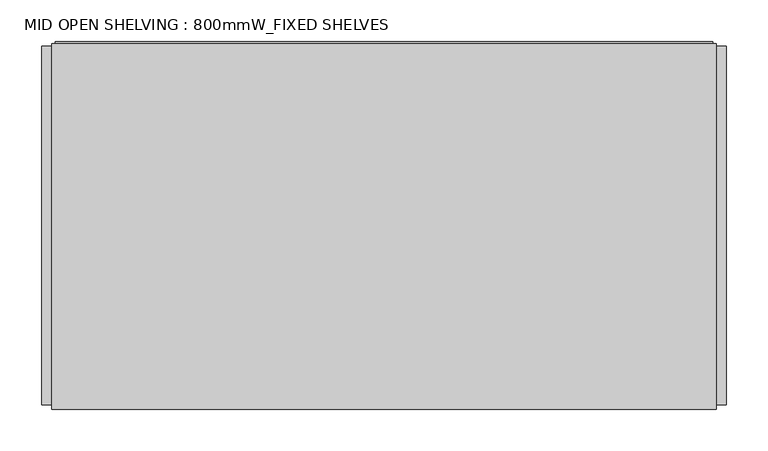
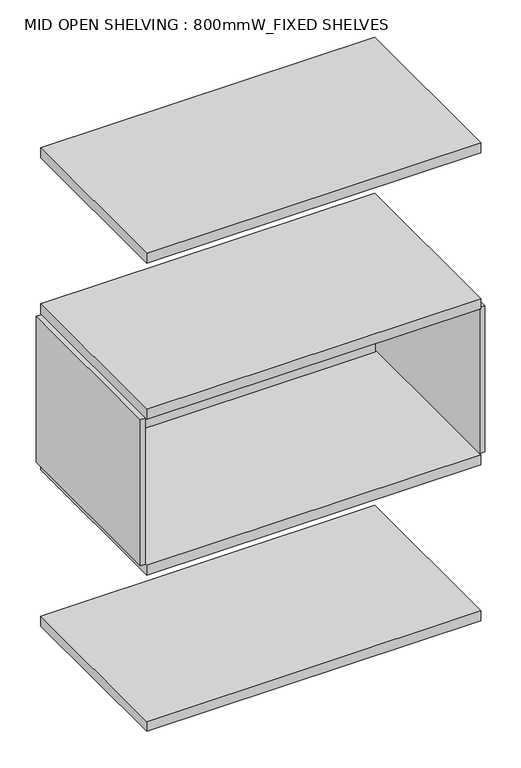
"""IFC4 building model written with IfcOpenShell, lengths in millimetres: furniture geometry, MID OPEN SHELVING : 800mmW_FIXED SHELVES."""

from ifc_helpers import new_model, si_unit, frame, origin, place, context, project, spatial, polyline, outline, extrude, source, transform, mapped, element, save


def mid_open_shelving_800mmw_fixed_shelves_dca0eaa3(model_context):
    return source(origin(), model_context, "Body", "SweptSolid", [
        extrude(outline(polyline([(412.0, -214.7757931), (400.0, -214.7757931), (400.0, 217.1931665), (412.0, 217.1931665), (412.0, -214.7757931)])), frame((0.0, 0.0, 413.0), z_axis=(0.0, 0.0, 1.0), x_axis=(1.0, 0.0, 0.0)), (0.0, 0.0, 1.0), 370.0),
        extrude(outline(polyline([(-400.0, -214.7757931), (-412.0, -214.7757931), (-412.0, 217.1931665), (-400.0, 217.1931665), (-400.0, -214.7757931)])), frame((0.0, 0.0, 413.0), z_axis=(0.0, 0.0, 1.0), x_axis=(1.0, 0.0, 0.0)), (0.0, 0.0, 1.0), 370.0),
        extrude(outline(polyline([(400.0, 220.0), (400.0, -220.0), (-400.0, -220.0), (-400.0, 220.0), (400.0, 220.0)])), frame((0.0, 0.0, -7.0), z_axis=(0.0, 0.0, 1.0), x_axis=(1.0, 0.0, 0.0)), (0.0, 0.0, 1.0), 25.0),
        extrude(outline(polyline([(400.0, 220.0), (400.0, -220.0), (-400.0, -220.0), (-400.0, 220.0), (400.0, 220.0)])), frame((0.0, 0.0, 388.0), z_axis=(0.0, 0.0, 1.0), x_axis=(1.0, 0.0, 0.0)), (0.0, 0.0, 1.0), 25.0),
        extrude(outline(polyline([(400.0, 220.0), (400.0, -220.0), (-400.0, -220.0), (-400.0, 220.0), (400.0, 220.0)])), frame((0.0, 0.0, 783.0), z_axis=(0.0, 0.0, 1.0), x_axis=(1.0, 0.0, 0.0)), (0.0, 0.0, 1.0), 25.0),
        extrude(outline(polyline([(400.0, 220.0), (400.0, -220.0), (-400.0, -220.0), (-400.0, 220.0), (400.0, 220.0)])), frame((0.0, 0.0, 1178.0), z_axis=(0.0, 0.0, 1.0), x_axis=(1.0, 0.0, 0.0)), (0.0, 0.0, 1.0), 25.0),
        extrude(outline(polyline([(395.4939356, 222.7282814), (395.4939356, 210.7282814), (-395.4939356, 210.7282814), (-395.4939356, 222.7282814), (395.4939356, 222.7282814)])), frame((0.0, 0.0, 413.0), z_axis=(0.0, 0.0, 1.0), x_axis=(1.0, 0.0, 0.0)), (0.0, 0.0, 1.0), 370.0),
    ])


if __name__ == "__main__":
    model = new_model("IFC4")
    model_context = context("Model", 3, world=origin())
    ifc_project = project(units=[si_unit("LENGTHUNIT", "METRE", prefix="MILLI")], contexts=[model_context])
    site = spatial("IfcSite", under=ifc_project)
    building = spatial("IfcBuilding", under=site)
    placement = place(None, origin())
    mid_open_shelving_800mmw_fixed_shelves_shape = mid_open_shelving_800mmw_fixed_shelves_dca0eaa3(model_context)
    element("IfcFurniture", 1, ObjectType="MID OPEN SHELVING : 800mmW_FIXED SHELVES", at=placement, inside=building, context=model_context, shape_type="MappedRepresentation", body=[
        mapped(mid_open_shelving_800mmw_fixed_shelves_shape, transform((0.0, 0.0, 0.0), x_axis=(1.0, 0.0, 0.0), y_axis=(0.0, 1.0, 0.0), z_axis=(0.0, 0.0, 1.0))),
    ])
    save(model, "model.ifc")
